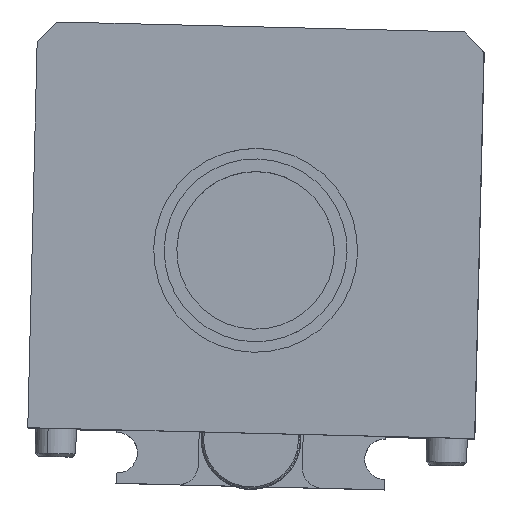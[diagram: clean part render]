
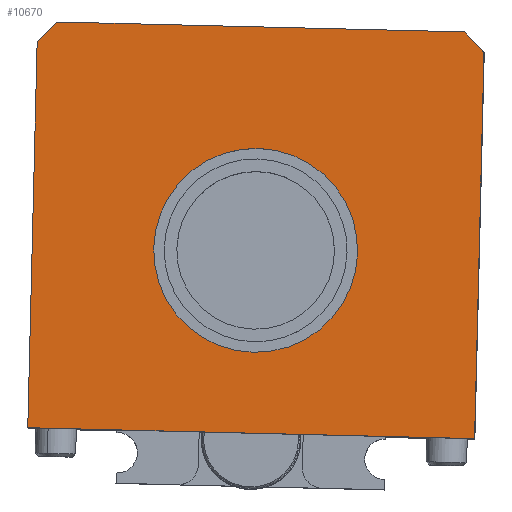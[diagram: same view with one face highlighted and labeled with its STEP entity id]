
A CAD part, top view. The second image highlights one B-rep face of the part: STEP entity #10670.
In plain terms, the highlighted planar face has unit normal (0, 0, 1).
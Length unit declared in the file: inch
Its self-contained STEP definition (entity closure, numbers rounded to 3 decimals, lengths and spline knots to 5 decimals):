
#134 = ORIENTED_EDGE ( 'NONE', *, *, #71927, .T. ) ;
#1463 = ORIENTED_EDGE ( 'NONE', *, *, #4814, .T. ) ;
#2895 = EDGE_LOOP ( 'NONE', ( #56855, #13572 ) ) ;
#3605 = DIRECTION ( 'NONE',  ( -0.724, -0.69, 0. ) ) ;
#4350 = DIRECTION ( 'NONE',  ( -0.69, 0.724, 0. ) ) ;
#4814 = EDGE_CURVE ( 'NONE', #41305, #80647, #35867, .T. ) ;
#5338 = CARTESIAN_POINT ( 'NONE',  ( -2.27293, -1.66212, 2.43254 ) ) ;
#5390 = AXIS2_PLACEMENT_3D ( 'NONE', #5338, #13595, #27919 ) ;
#5554 = FACE_OUTER_BOUND ( 'NONE', #34293, .T. ) ;
#5785 = VECTOR ( 'NONE', #78425, 39.37008 ) ;
#6801 = EDGE_CURVE ( 'NONE', #54803, #7086, #50651, .T. ) ;
#7086 = VERTEX_POINT ( 'NONE', #78066 ) ;
#10670 = ADVANCED_FACE ( 'NONE', ( #97751, #5554 ), #91238, .T. ) ;
#12275 = AXIS2_PLACEMENT_3D ( 'NONE', #100346, #43458, #91595 ) ;
#13499 = ORIENTED_EDGE ( 'NONE', *, *, #70011, .T. ) ;
#13572 = ORIENTED_EDGE ( 'NONE', *, *, #6801, .F. ) ;
#13595 = DIRECTION ( 'NONE',  ( 0., 0., 1. ) ) ;
#16420 = VERTEX_POINT ( 'NONE', #74285 ) ;
#27919 = DIRECTION ( 'NONE',  ( 1., -0.024, 0. ) ) ;
#29574 = CARTESIAN_POINT ( 'NONE',  ( -0.98981, -0.31798, 2.43254 ) ) ;
#30828 = VECTOR ( 'NONE', #3605, 39.37008 ) ;
#31203 = VECTOR ( 'NONE', #66005, 39.37008 ) ;
#34293 = EDGE_LOOP ( 'NONE', ( #43822, #134, #39189, #76589, #13499, #1463 ) ) ;
#35867 = LINE ( 'NONE', #71859, #58368 ) ;
#35885 = CARTESIAN_POINT ( 'NONE',  ( -3.67493, -2.7533, 2.43254 ) ) ;
#36242 = CARTESIAN_POINT ( 'NONE',  ( -1.05077, -0.25397, 2.43254 ) ) ;
#38350 = VERTEX_POINT ( 'NONE', #29574 ) ;
#39189 = ORIENTED_EDGE ( 'NONE', *, *, #85878, .T. ) ;
#39818 = DIRECTION ( 'NONE',  ( 1., -0.024, 0. ) ) ;
#40132 = VERTEX_POINT ( 'NONE', #81349 ) ;
#41305 = VERTEX_POINT ( 'NONE', #35885 ) ;
#43458 = DIRECTION ( 'NONE',  ( 0., 0., 1. ) ) ;
#43822 = ORIENTED_EDGE ( 'NONE', *, *, #46904, .T. ) ;
#44004 = LINE ( 'NONE', #74668, #68867 ) ;
#46540 = AXIS2_PLACEMENT_3D ( 'NONE', #56566, #95262, #39818 ) ;
#46904 = EDGE_CURVE ( 'NONE', #80647, #16420, #69159, .T. ) ;
#48151 = EDGE_CURVE ( 'NONE', #7086, #54803, #89268, .T. ) ;
#48513 = LINE ( 'NONE', #36242, #63528 ) ;
#50651 = CIRCLE ( 'NONE', #46540, 0.6275 ) ;
#50693 = CARTESIAN_POINT ( 'NONE',  ( -3.61404, -0.25404, 2.43254 ) ) ;
#52378 = LINE ( 'NONE', #50693, #31203 ) ;
#54803 = VERTEX_POINT ( 'NONE', #101924 ) ;
#56566 = CARTESIAN_POINT ( 'NONE',  ( -2.27293, -1.66212, 2.43254 ) ) ;
#56855 = ORIENTED_EDGE ( 'NONE', *, *, #48151, .F. ) ;
#56956 = DIRECTION ( 'NONE',  ( 1., -0.024, 0. ) ) ;
#58368 = VECTOR ( 'NONE', #56956, 39.37008 ) ;
#63528 = VECTOR ( 'NONE', #4350, 39.37008 ) ;
#66005 = DIRECTION ( 'NONE',  ( -1., 0.024, 0. ) ) ;
#68867 = VECTOR ( 'NONE', #82724, 39.37008 ) ;
#69159 = LINE ( 'NONE', #87508, #5785 ) ;
#70011 = EDGE_CURVE ( 'NONE', #73678, #41305, #44004, .T. ) ;
#70073 = CARTESIAN_POINT ( 'NONE',  ( -0.92575, -2.82028, 2.43254 ) ) ;
#71859 = CARTESIAN_POINT ( 'NONE',  ( -3.67493, -2.7533, 2.43254 ) ) ;
#71927 = EDGE_CURVE ( 'NONE', #16420, #38350, #48513, .T. ) ;
#73678 = VERTEX_POINT ( 'NONE', #77625 ) ;
#74285 = CARTESIAN_POINT ( 'NONE',  ( -0.8679, -0.44599, 2.43254 ) ) ;
#74668 = CARTESIAN_POINT ( 'NONE',  ( -3.61404, -0.25404, 2.43254 ) ) ;
#76589 = ORIENTED_EDGE ( 'NONE', *, *, #87578, .T. ) ;
#77625 = CARTESIAN_POINT ( 'NONE',  ( -3.61708, -0.379, 2.43254 ) ) ;
#78066 = CARTESIAN_POINT ( 'NONE',  ( -1.64562, -1.67741, 2.43254 ) ) ;
#78425 = DIRECTION ( 'NONE',  ( 0.024, 1., 0. ) ) ;
#80647 = VERTEX_POINT ( 'NONE', #70073 ) ;
#81349 = CARTESIAN_POINT ( 'NONE',  ( -3.48907, -0.25708, 2.43254 ) ) ;
#82724 = DIRECTION ( 'NONE',  ( -0.024, -1., 0. ) ) ;
#84357 = LINE ( 'NONE', #90930, #30828 ) ;
#85878 = EDGE_CURVE ( 'NONE', #38350, #40132, #52378, .T. ) ;
#87508 = CARTESIAN_POINT ( 'NONE',  ( -0.86485, -0.32102, 2.43254 ) ) ;
#87578 = EDGE_CURVE ( 'NONE', #40132, #73678, #84357, .T. ) ;
#89268 = CIRCLE ( 'NONE', #5390, 0.6275 ) ;
#90930 = CARTESIAN_POINT ( 'NONE',  ( -4.83315, -1.53723, 2.43254 ) ) ;
#91238 = PLANE ( 'NONE',  #12275 ) ;
#91595 = DIRECTION ( 'NONE',  ( 1., -0.024, 0. ) ) ;
#95262 = DIRECTION ( 'NONE',  ( 0., 0., 1. ) ) ;
#97751 = FACE_BOUND ( 'NONE', #2895, .T. ) ;
#100346 = CARTESIAN_POINT ( 'NONE',  ( -3.67493, -2.7533, 2.43254 ) ) ;
#101924 = CARTESIAN_POINT ( 'NONE',  ( -2.90025, -1.64684, 2.43254 ) ) ;
